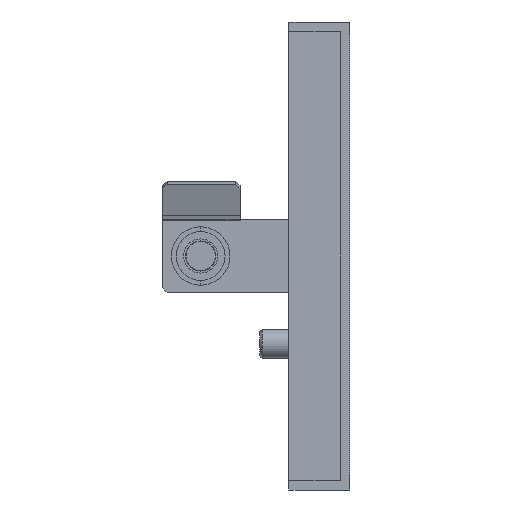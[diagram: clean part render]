
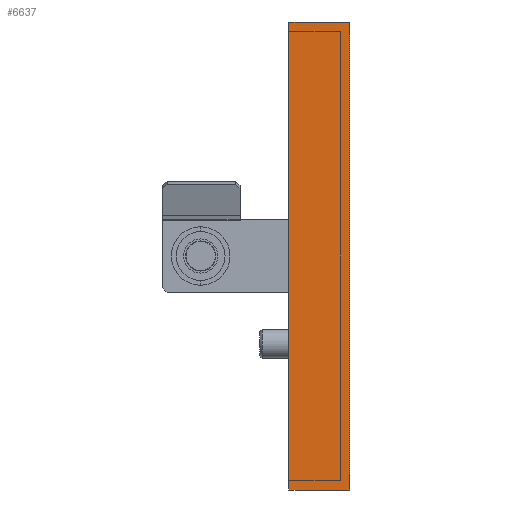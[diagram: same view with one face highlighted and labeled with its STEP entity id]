
A CAD part, front view. The second image highlights one B-rep face of the part: STEP entity #6637.
In plain terms, the highlighted planar face has unit normal (0, -1, 0).
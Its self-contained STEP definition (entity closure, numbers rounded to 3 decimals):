
#102 = EDGE_CURVE ( 'NONE', #4336, #8044, #12063, .T. ) ;
#195 = ORIENTED_EDGE ( 'NONE', *, *, #6753, .F. ) ;
#674 = DIRECTION ( 'NONE',  ( -1., 0., 0. ) ) ;
#710 = ORIENTED_EDGE ( 'NONE', *, *, #8799, .T. ) ;
#821 = CARTESIAN_POINT ( 'NONE',  ( -12.5, -397.5, -48. ) ) ;
#924 = LINE ( 'NONE', #13879, #12587 ) ;
#1248 = FACE_OUTER_BOUND ( 'NONE', #5730, .T. ) ;
#1536 = PLANE ( 'NONE',  #9204 ) ;
#2358 = CARTESIAN_POINT ( 'NONE',  ( -12.5, -397.5, 0. ) ) ;
#3443 = CARTESIAN_POINT ( 'NONE',  ( -2., -397.5, 0. ) ) ;
#3888 = LINE ( 'NONE', #13653, #4892 ) ;
#4092 = LINE ( 'NONE', #11463, #10669 ) ;
#4252 = CARTESIAN_POINT ( 'NONE',  ( 0., -397.5, -48. ) ) ;
#4276 = DIRECTION ( 'NONE',  ( 0., 0., -1. ) ) ;
#4336 = VERTEX_POINT ( 'NONE', #7370 ) ;
#4607 = VERTEX_POINT ( 'NONE', #4252 ) ;
#4892 = VECTOR ( 'NONE', #12524, 1000. ) ;
#5651 = DIRECTION ( 'NONE',  ( 0., 1., 0. ) ) ;
#5730 = EDGE_LOOP ( 'NONE', ( #195, #710, #7663, #7095 ) ) ;
#5961 = EDGE_CURVE ( 'NONE', #8333, #4336, #3888, .T. ) ;
#6219 = DIRECTION ( 'NONE',  ( 0., 0., 1. ) ) ;
#6637 = ADVANCED_FACE ( 'NONE', ( #1248 ), #1536, .F. ) ;
#6753 = EDGE_CURVE ( 'NONE', #4607, #8044, #924, .T. ) ;
#6916 = DIRECTION ( 'NONE',  ( 1., 0., 0. ) ) ;
#7095 = ORIENTED_EDGE ( 'NONE', *, *, #102, .T. ) ;
#7370 = CARTESIAN_POINT ( 'NONE',  ( -12.5, -397.5, 48. ) ) ;
#7663 = ORIENTED_EDGE ( 'NONE', *, *, #5961, .T. ) ;
#8031 = CARTESIAN_POINT ( 'NONE',  ( 0., -397.5, 48. ) ) ;
#8044 = VERTEX_POINT ( 'NONE', #821 ) ;
#8333 = VERTEX_POINT ( 'NONE', #8031 ) ;
#8799 = EDGE_CURVE ( 'NONE', #4607, #8333, #4092, .T. ) ;
#9204 = AXIS2_PLACEMENT_3D ( 'NONE', #3443, #5651, #6916 ) ;
#10669 = VECTOR ( 'NONE', #6219, 1000. ) ;
#11463 = CARTESIAN_POINT ( 'NONE',  ( 0., -397.5, 0. ) ) ;
#12063 = LINE ( 'NONE', #2358, #12661 ) ;
#12524 = DIRECTION ( 'NONE',  ( -1., 0., 0. ) ) ;
#12587 = VECTOR ( 'NONE', #674, 1000. ) ;
#12661 = VECTOR ( 'NONE', #4276, 1000. ) ;
#13653 = CARTESIAN_POINT ( 'NONE',  ( 2.928, -397.5, 48. ) ) ;
#13879 = CARTESIAN_POINT ( 'NONE',  ( 2.928, -397.5, -48. ) ) ;
